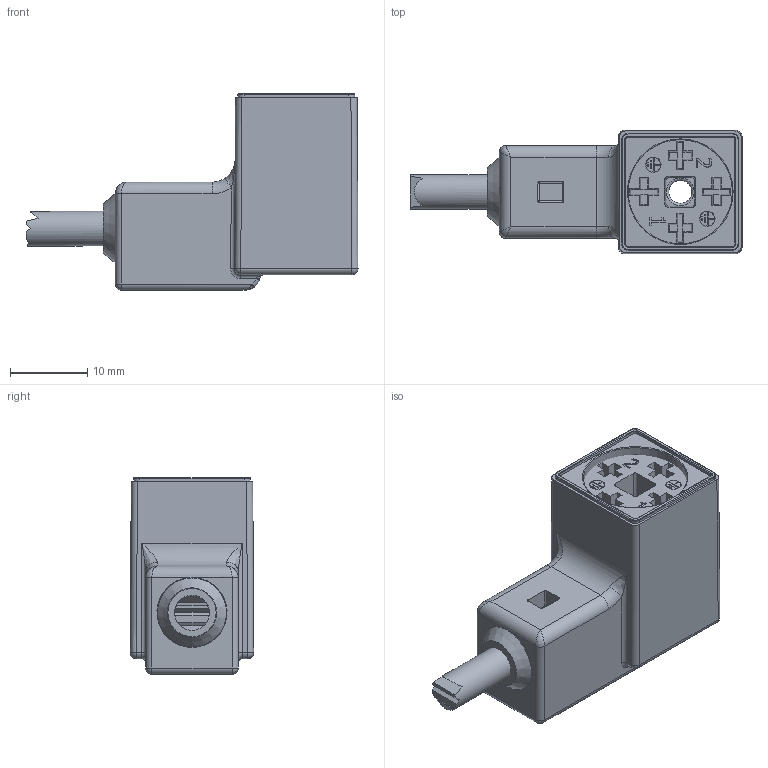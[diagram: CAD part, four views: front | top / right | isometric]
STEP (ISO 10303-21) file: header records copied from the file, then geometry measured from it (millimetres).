
FILE_DESCRIPTION((''),'2;1');
FILE_NAME('C:\Users\enrico\Desktop\Ale\File 3d catalogo\Connettori per attuatori Serie DIN\DIN C IND.stp','2020-07-17T14:18:15',('Tecnico2'),(''),'Autodesk Inventor 2012','Autodesk Inventor 2012','');
FILE_SCHEMA(('AUTOMOTIVE_DESIGN { 1 0 10303 214 1 1 1 1 }'));
Length unit declared in the file: millimetre
Products named in the file (3): 48614_Din 2P+2T  terra H6 H12 forma C MICRO 9.4mm; Corpo pvc forma C; connettore forma C ISO 9.4mm 2P 2T
Assembly tree (2 placements, depth 2):
  48614_Din 2P+2T  terra H6 H12 forma C MICRO 9.4mm
    Corpo pvc forma C
    connettore forma C ISO 9.4mm 2P 2T
Bounding box: 43.03 x 15.99 x 25.45 mm (x, y, z)
Volume: 8171.2 mm3; surface area: 5895 mm2
Topology: 2 solids, 2 shells, 401 faces, 1028 edges, 648 vertices
Faces by surface type: plane 237, cylinder 105, bspline 24, torus 22, sphere 10, cone 3
Full cylindrical faces by diameter (mm): 1.1 x4, 1.15 x2, 1.9 x2, 2 x2, 3 x1, 3.2 x1, 4.2 x1, 4.3 x1, 4.5 x1, 6.5 x1, 13.5 x1
Entity records: 12253 total; most frequent: CARTESIAN_POINT 2597, DIRECTION 1959, ORIENTED_EDGE 1956, EDGE_CURVE 978, VECTOR 683, LINE 683, AXIS2_PLACEMENT_3D 638, VERTEX_POINT 636
